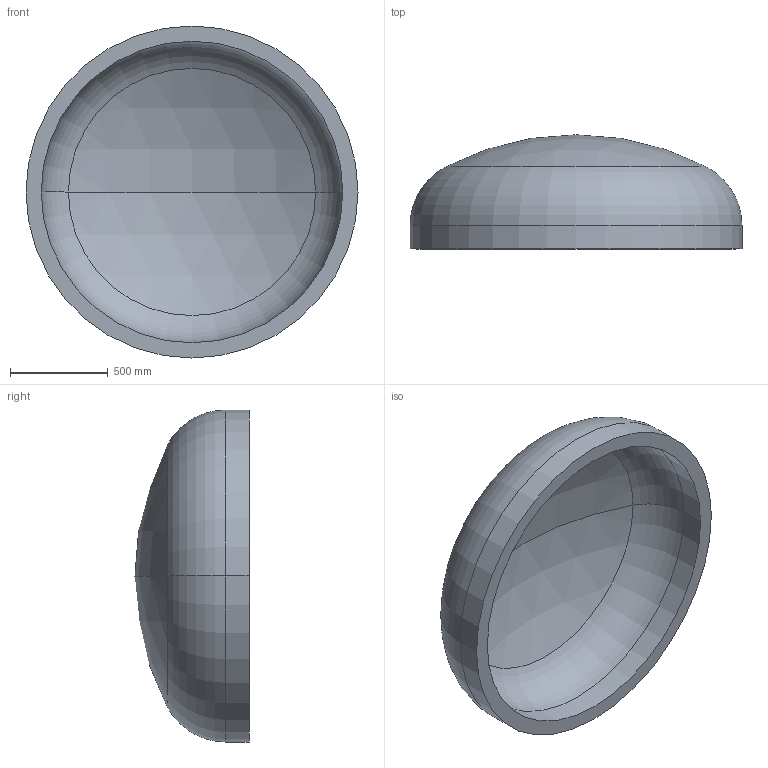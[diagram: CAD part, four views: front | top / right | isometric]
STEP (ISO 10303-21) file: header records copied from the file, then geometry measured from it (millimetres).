
FILE_DESCRIPTION (( 'STEP AP203' ), '1' );
FILE_NAME ('DIN 28013 Korbbogenform_-_Boden DIN 28013 - 1700 x 120 - I - s=78.step', '2016-07-01T12:02:17', ( '' ), ( '' ), 'SwSTEP 2.0', 'SolidWorks 2013', '' );
FILE_SCHEMA (( 'CONFIG_CONTROL_DESIGN' ));
Length unit declared in the file: millimetre
Products named in the file (1): DIN 28013 Korbbogenform_-_Boden DIN 28013 - 1700 x 120 - I - s=78
Bounding box: 1700 x 584.42 x 1700 mm (x, y, z)
Volume: 278489597.4 mm3; surface area: 7550961.1 mm2
Topology: 1 solids, 1 shells, 13 faces, 24 edges, 14 vertices
Faces by surface type: torus 4, cylinder 4, sphere 4, plane 1
Entity records: 407 total; most frequent: DIRECTION 72, CARTESIAN_POINT 52, ORIENTED_EDGE 48, AXIS2_PLACEMENT_3D 34, EDGE_CURVE 24, CIRCLE 20, EDGE_LOOP 14, VERTEX_POINT 14
